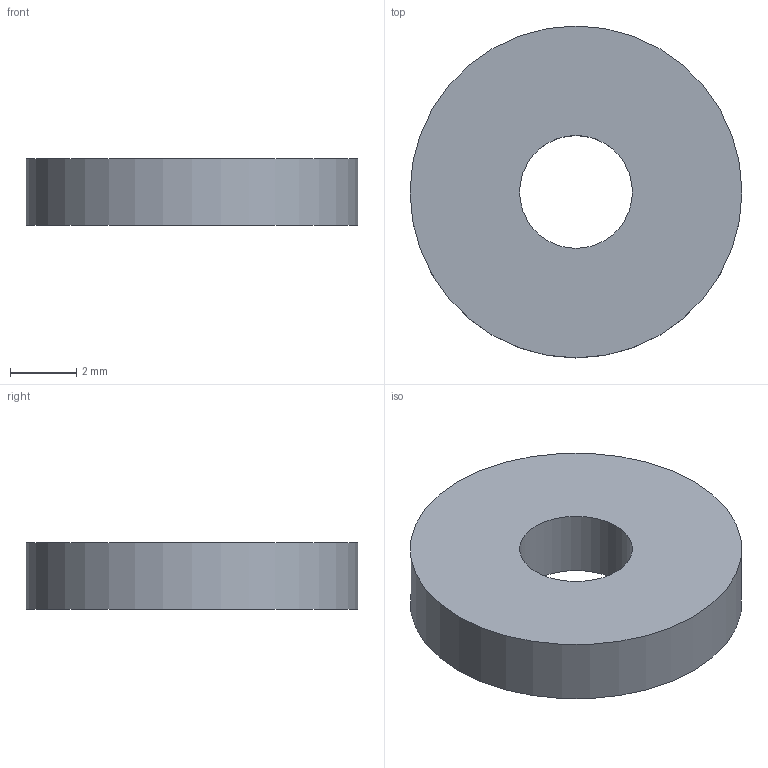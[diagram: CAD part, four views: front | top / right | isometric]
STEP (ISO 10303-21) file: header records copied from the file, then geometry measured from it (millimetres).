
FILE_DESCRIPTION(('Open CASCADE Model'),'2;1');
FILE_NAME('Open CASCADE Shape Model','2026-09-18T15:14:33',('Author'),( 'Open CASCADE'),'Open CASCADE STEP processor 7.9','Open CASCADE 7.9' ,'Unknown');
FILE_SCHEMA(('AUTOMOTIVE_DESIGN { 1 0 10303 214 1 1 1 1 }'));
Length unit declared in the file: millimetre
Products named in the file (1): Open CASCADE STEP translator 7.9 12
Bounding box: 10 x 10 x 2 mm (x, y, z)
Volume: 138.9 mm3; surface area: 223.1 mm2
Topology: 1 solids, 1 shells, 4 faces, 6 edges, 4 vertices
Faces by surface type: cylinder 2, plane 2
Full cylindrical faces by diameter (mm): 3.4 x1, 10 x1
Entity records: 186 total; most frequent: DIRECTION 32, CARTESIAN_POINT 27, ORIENTED_EDGE 12, PCURVE 12, DEFINITIONAL_REPRESENTATION 12, LINE 10, VECTOR 10, AXIS2_PLACEMENT_3D 9
